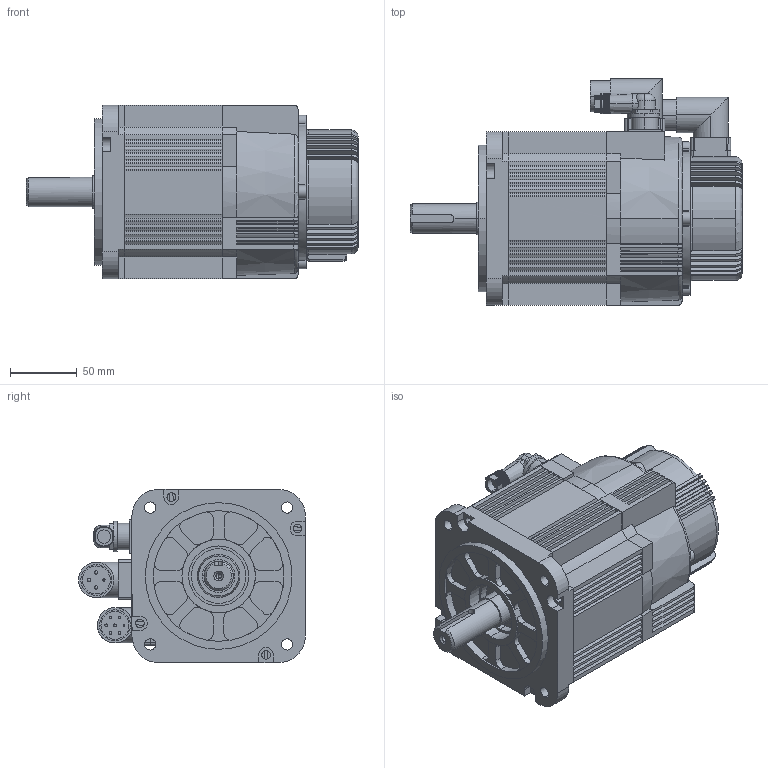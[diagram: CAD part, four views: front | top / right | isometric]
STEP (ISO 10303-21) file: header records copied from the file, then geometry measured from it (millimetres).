
FILE_DESCRIPTION (( 'STEP AP203' ), '1' );
FILE_NAME ('ACM13013H2E.STEP', '2021-04-02T09:16:32', ( '謂矨栲' ), ( 'Microsoft' ), 'SwSTEP 2.0', 'SolidWorks 2014', '' );
FILE_SCHEMA (( 'CONFIG_CONTROL_DESIGN' ));
Length unit declared in the file: millimetre
Products named in the file (1): ACM13013H2E
Bounding box: 249 x 170 x 130 mm (x, y, z)
Volume: 2523816.5 mm3; surface area: 212725.5 mm2
Topology: 1 solids, 1 shells, 1279 faces, 3617 edges, 2346 vertices
Faces by surface type: plane 685, cylinder 466, torus 71, cone 26, bspline 20, sphere 11
Entity records: 43876 total; most frequent: CARTESIAN_POINT 10469, ORIENTED_EDGE 7140, DIRECTION 6959, EDGE_CURVE 3570, AXIS2_PLACEMENT_3D 2383, VERTEX_POINT 2324, VECTOR 2193, LINE 2193
